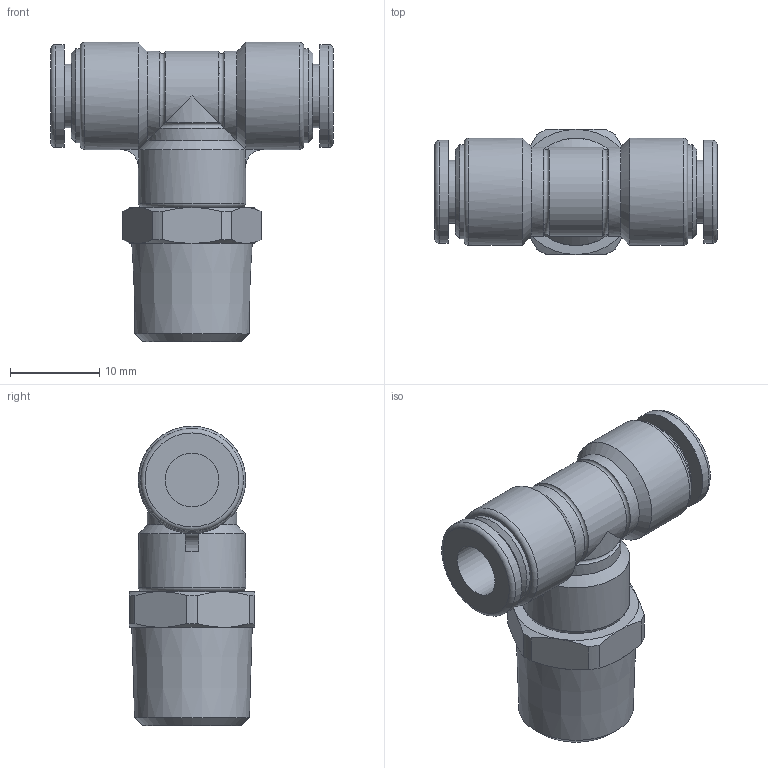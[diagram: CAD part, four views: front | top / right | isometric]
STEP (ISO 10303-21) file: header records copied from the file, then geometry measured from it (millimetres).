
FILE_DESCRIPTION(/* description */ (''),/* implementation_level */ '2;1');
FILE_NAME(/* name */ 'E:\2013年度版　3D-DATA\【02】 TOUCH CONNECTOR FIVE SUS\[03] MALE BRANCH TEE\[06] FS6-02MT FS6-02MTW.stp',/* time_stamp */ '2013-08-06T16:53:37+09:00',/* author */ ('takahashi-pc2'),/* organization */ (''),/* preprocessor_version */ 'ST-DEVELOPER v15.2',/* originating_system */ 'Autodesk Inventor 2014',/* authorisation */ '');
FILE_SCHEMA (('AUTOMOTIVE_DESIGN { 1 0 10303 214 3 1 1 }'));
Length unit declared in the file: millimetre
Products named in the file (1): [06] FS6-02MT FS6-02MTW
Bounding box: 31.6 x 14 x 33.5 mm (x, y, z)
Volume: 5296.7 mm3; surface area: 3124.6 mm2
Topology: 1 solids, 1 shells, 86 faces, 194 edges, 120 vertices
Faces by surface type: plane 31, cylinder 26, cone 20, torus 9
Full cylindrical faces by diameter (mm): 6 x2, 7.1 x2, 10.5 x2, 11.5 x2, 12 x3
Entity records: 2363 total; most frequent: CARTESIAN_POINT 539, DIRECTION 396, ORIENTED_EDGE 346, AXIS2_PLACEMENT_3D 176, EDGE_CURVE 173, VERTEX_POINT 119, EDGE_LOOP 116, ADVANCED_FACE 86
